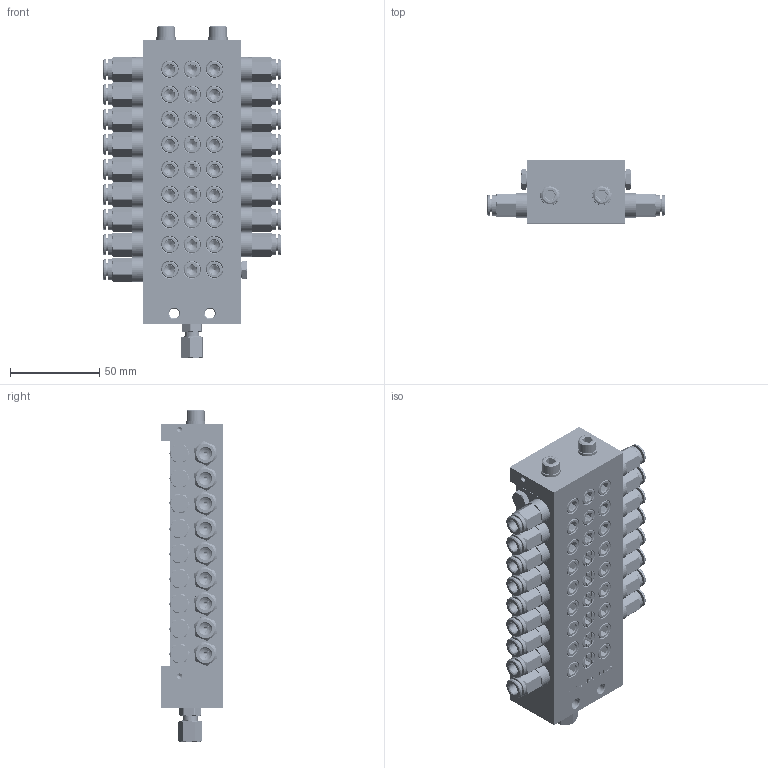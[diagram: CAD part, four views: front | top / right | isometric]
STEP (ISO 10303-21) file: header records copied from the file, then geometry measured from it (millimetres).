
FILE_DESCRIPTION (( 'STEP AP214' ), '1' );
FILE_NAME ('STW_XV_0143_17_0502_17_Auslässe.STEP', '2026-02-04T10:28:11', ( '' ), ( '' ), 'SwSTEP 2.0', 'SolidWorks 2022', '' );
FILE_SCHEMA (( 'AUTOMOTIVE_DESIGN' ));
Length unit declared in the file: millimetre
Products named in the file (19): 991214010601; STW_XV_0143_17_0502_17_Auslässe; U_Scheibe_6; XV_Mittelelement; STW_XV_Verbindungsstopen; 991214010601_Mutter; M6X65_DIN_912; DR6-C_HDX_25.07.16_1; 991214010601_Schneidring; STW_XV_MITTEL_1; 991214010601_Koerper; Verschlussstopfen_1_8_2; STW_XV_ENGANG; RIVOLUZIONE_0_2; H200139_HDS01_6_M10X1_08.05.17; OR 7.66X1.78_1; STW_XV_END; Verschlussstopfen_1_8; STW_XV_Kolbenanschlag
Assembly tree (61 placements, depth 3):
  STW_XV_0143_17_0502_17_Auslässe
    STW_XV_ENGANG
    STW_XV_MITTEL_1  x3
    STW_XV_END
    Verschlussstopfen_1_8_2  x6
    STW_XV_Kolbenanschlag  x6
    STW_XV_Verbindungsstopen  x3
    M6X65_DIN_912  x2
    U_Scheibe_6  x2
    991214010601
      991214010601_Koerper
      991214010601_Schneidring
      991214010601_Mutter
    XV_Mittelelement  x6
      STW_XV_MITTEL_1
      STW_XV_Kolbenanschlag
      Verschlussstopfen_1_8_2
      STW_XV_Verbindungsstopen
    H200139_HDS01_6_M10X1_08.05.17  x17
      OR 7.66X1.78_1
      DR6-C_HDX_25.07.16_1
      RIVOLUZIONE_0_2
    Verschlussstopfen_1_8
Bounding box: 99.6 x 35 x 185.68 mm (x, y, z)
Volume: 286002.4 mm3; surface area: 175176 mm2
Topology: 115 solids, 115 shells, 3785 faces, 9806 edges, 6308 vertices
Faces by surface type: plane 1859, cylinder 934, cone 753, bspline 221, torus 18
Full cylindrical faces by diameter (mm): 2 x233, 3 x16, 4.2 x17, 4.5 x1, 5 x92, 5.5 x2, 5.9 x2, 6 x3, 6.2 x38, 6.3 x17, 6.4 x2, 6.5 x18, 7 x18, 7.2 x17, 7.4 x1, 7.67 x1, 8 x19, 8.3 x1, 8.4 x9, 8.5 x17, 8.6 x45, 9 x20, 9.7 x19, 9.73 x9, 9.8 x7, 9.9 x17, 10 x54, 10.3 x17, 11 x2, 11.5 x17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
Entity records: 45688 total; most frequent: CARTESIAN_POINT 22453, ORIENTED_EDGE 3064, DIRECTION 2725, EDGE_CURVE 1532, VERTEX_POINT 1095, EDGE_LOOP 1035, AXIS2_PLACEMENT_3D 980, FACE_OUTER_BOUND 832
